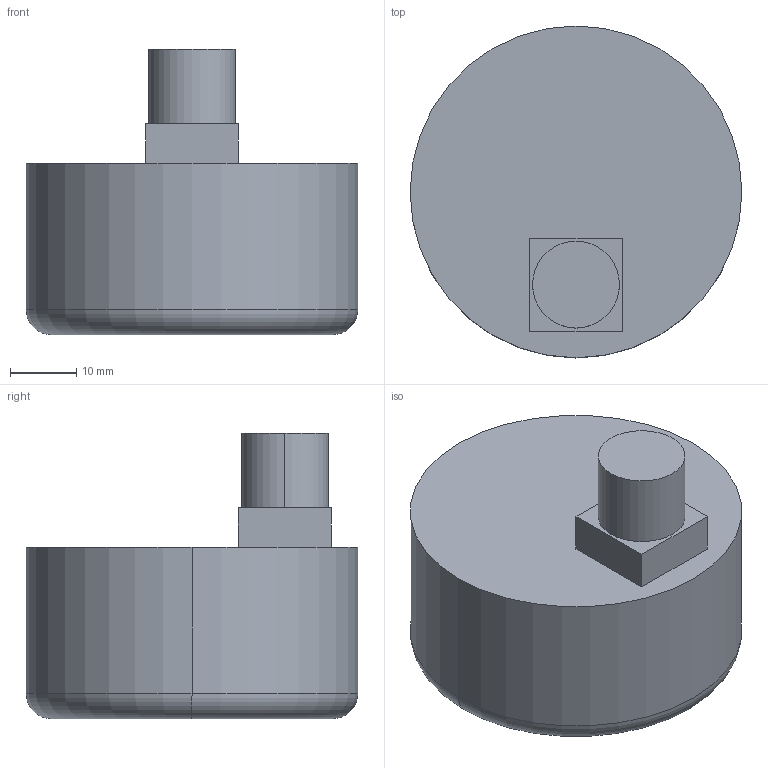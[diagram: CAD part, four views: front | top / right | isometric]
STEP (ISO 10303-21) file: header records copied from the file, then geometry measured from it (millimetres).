
FILE_DESCRIPTION (( 'STEP AP214' ), '1' );
FILE_NAME ('Manometr_grzewczy_hydrometr_x_0_3D_AFRISO.STEP', '2022-12-08T11:38:16', ( '' ), ( '' ), 'SwSTEP 2.0', 'SolidWorks 2022', '' );
FILE_SCHEMA (( 'AUTOMOTIVE_DESIGN' ));
Length unit declared in the file: millimetre
Products named in the file (1): Manometr_grzewczy_hydrometr_x_0_3D_AFRISO
Bounding box: 50 x 50 x 43 mm (x, y, z)
Volume: 52873.5 mm3; surface area: 8514 mm2
Topology: 1 solids, 1 shells, 14 faces, 28 edges, 18 vertices
Faces by surface type: plane 8, cylinder 4, torus 2
Entity records: 402 total; most frequent: DIRECTION 70, CARTESIAN_POINT 61, ORIENTED_EDGE 56, EDGE_CURVE 28, AXIS2_PLACEMENT_3D 27, VERTEX_POINT 18, VECTOR 16, LINE 16
